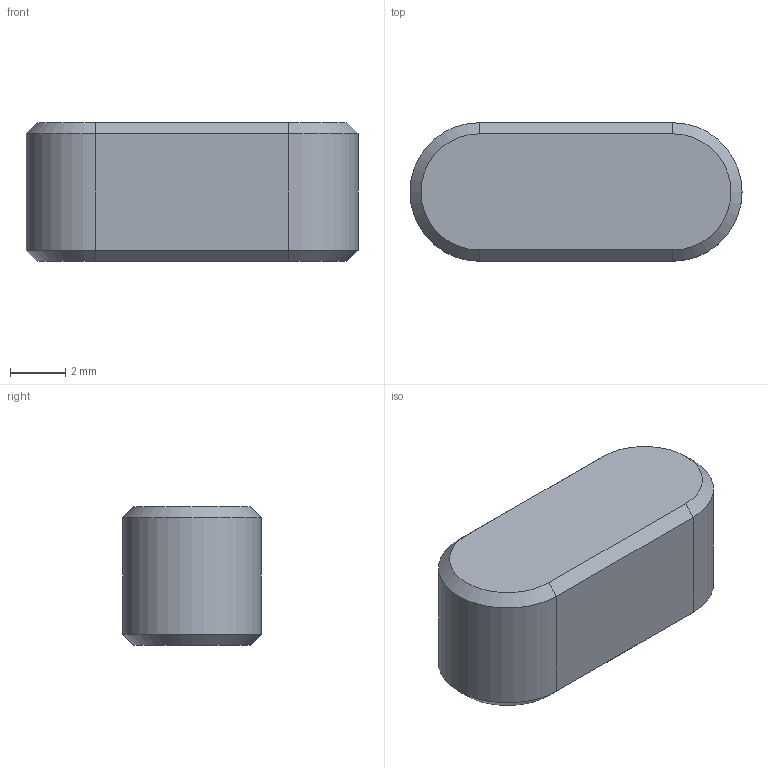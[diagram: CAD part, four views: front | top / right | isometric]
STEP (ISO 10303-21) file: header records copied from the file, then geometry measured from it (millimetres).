
FILE_DESCRIPTION(/* description */ ('키 및 해당 키홈'),/* implementation_level */ '2;1');
FILE_NAME(/* name */ '',/* time_stamp */ '2024-05-07T18:07:16+09:00',/* author */ ('jhkim'),/* organization */ (''),/* preprocessor_version */ 'ST-DEVELOPER v20',/* originating_system */ 'Autodesk Inventor 2025',/* authorisation */ '');
FILE_SCHEMA (('AUTOMOTIVE_DESIGN { 1 0 10303 214 3 1 1 }'));
Length unit declared in the file: millimetre
Products named in the file (1): 평행키 5x5x12
Bounding box: 12 x 5 x 5 mm (x, y, z)
Volume: 268.6 mm3; surface area: 243.5 mm2
Topology: 1 solids, 1 shells, 14 faces, 28 edges, 16 vertices
Faces by surface type: plane 8, cone 4, cylinder 2
Entity records: 399 total; most frequent: DIRECTION 66, CARTESIAN_POINT 59, ORIENTED_EDGE 56, EDGE_CURVE 28, AXIS2_PLACEMENT_3D 23, LINE 20, VECTOR 20, VERTEX_POINT 16
